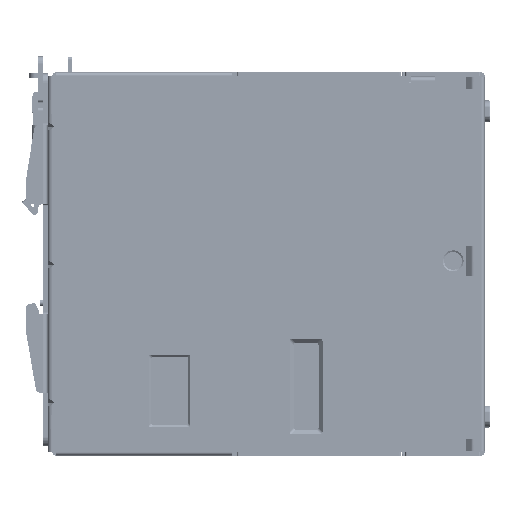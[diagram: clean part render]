
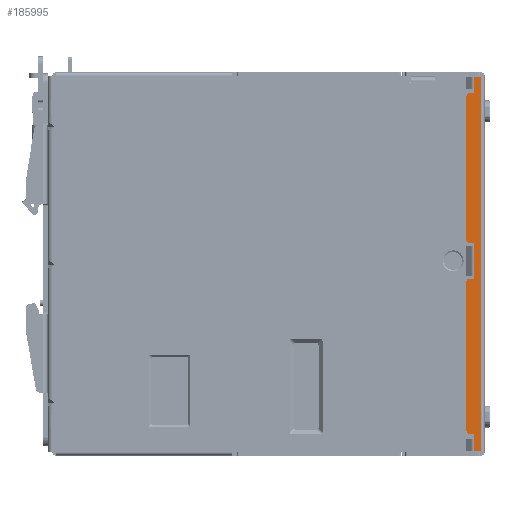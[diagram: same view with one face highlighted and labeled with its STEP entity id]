
A CAD part, front view. The second image highlights one B-rep face of the part: STEP entity #185995.
In plain terms, the highlighted planar face has unit normal (0, -1, 0).
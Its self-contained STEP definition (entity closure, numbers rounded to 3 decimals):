
#19834=DIRECTION('',(-0.001,0.,-1.));
#19835=VECTOR('',#19834,9.5);
#19836=CARTESIAN_POINT('',(135.945,0.,-55.25));
#19837=LINE('',#19836,#19835);
#19860=CARTESIAN_POINT('',(135.945,0.,-55.25));
#19874=DIRECTION('',(1.,0.,0.));
#19875=VECTOR('',#19874,1.35);
#19876=CARTESIAN_POINT('',(134.6,0.,-54.25));
#19877=LINE('',#19876,#19875);
#19882=DIRECTION('',(-1.,0.,0.));
#19883=VECTOR('',#19882,2.363);
#19884=CARTESIAN_POINT('',(138.3,0.,-121.3));
#19885=LINE('',#19884,#19883);
#19886=CARTESIAN_POINT('',(135.95,0.,-115.8));
#19887=CARTESIAN_POINT('',(135.95,0.,-116.3));
#19888=CARTESIAN_POINT('',(135.945,0.,
-116.8));
#19889=CARTESIAN_POINT('',(135.945,0.,-117.3));
#19891=CARTESIAN_POINT('',(134.6,0.,-114.8));
#19892=DIRECTION('',(0.,-1.,0.));
#19893=DIRECTION('',(-1.,0.,0.));
#19894=AXIS2_PLACEMENT_3D('',#19891,#19892,#19893);
#19896=CARTESIAN_POINT('',(134.6,0.,-66.75));
#19897=DIRECTION('',(0.,-1.,0.));
#19898=DIRECTION('',(0.,0.,1.));
#19899=AXIS2_PLACEMENT_3D('',#19896,#19897,#19898);
#19901=DIRECTION('',(0.,0.,1.));
#19902=VECTOR('',#19901,1.);
#19903=CARTESIAN_POINT('',(135.937,0.,-65.75));
#19904=LINE('',#19903,#19902);
#19905=CARTESIAN_POINT('',(135.95,0.,-54.25));
#19906=CARTESIAN_POINT('',(135.95,0.,-54.583));
#19907=CARTESIAN_POINT('',(135.945,0.,
-54.917));
#19908=CARTESIAN_POINT('',(135.945,0.,-55.25));
#19910=CARTESIAN_POINT('',(134.6,0.,-53.25));
#19911=DIRECTION('',(0.,-1.,0.));
#19912=DIRECTION('',(-1.,0.,0.));
#19913=AXIS2_PLACEMENT_3D('',#19910,#19911,#19912);
#19915=CARTESIAN_POINT('',(134.6,0.,-6.9));
#19916=DIRECTION('',(0.,-1.,0.));
#19917=DIRECTION('',(0.,0.,1.));
#19918=AXIS2_PLACEMENT_3D('',#19915,#19916,#19917);
#19920=CARTESIAN_POINT('',(135.945,0.,-4.4));
#19921=CARTESIAN_POINT('',(135.945,0.,
-4.9));
#19922=CARTESIAN_POINT('',(135.95,0.,-5.4));
#19923=CARTESIAN_POINT('',(135.95,0.,-5.9));
#19925=DIRECTION('',(-1.,0.,0.));
#19926=VECTOR('',#19925,2.363);
#19927=CARTESIAN_POINT('',(138.3,0.,-0.7));
#19928=LINE('',#19927,#19926);
#19946=DIRECTION('',(-0.002,0.,1.));
#19947=VECTOR('',#19946,3.7);
#19948=CARTESIAN_POINT('',(135.945,0.,-4.4));
#19949=LINE('',#19948,#19947);
#19967=CARTESIAN_POINT('',(135.945,0.,-4.4));
#20111=DIRECTION('',(-1.,0.,0.));
#20112=VECTOR('',#20111,1.35);
#20113=CARTESIAN_POINT('',(135.95,0.,-5.9));
#20114=LINE('',#20113,#20112);
#20119=DIRECTION('',(0.,0.,-1.));
#20120=VECTOR('',#20119,46.35);
#20121=CARTESIAN_POINT('',(133.6,0.,-6.9));
#20122=LINE('',#20121,#20120);
#25707=DIRECTION('',(1.,0.,0.));
#25708=VECTOR('',#25707,1.35);
#25709=CARTESIAN_POINT('',(134.6,0.,-115.8));
#25710=LINE('',#25709,#25708);
#25727=DIRECTION('',(0.,0.,-1.));
#25728=VECTOR('',#25727,48.05);
#25729=CARTESIAN_POINT('',(133.6,0.,-66.75));
#25730=LINE('',#25729,#25728);
#25743=DIRECTION('',(-1.,0.,0.));
#25744=VECTOR('',#25743,1.337);
#25745=CARTESIAN_POINT('',(135.937,0.,-65.75));
#25746=LINE('',#25745,#25744);
#25772=CARTESIAN_POINT('',(135.945,0.,-117.3));
#25774=DIRECTION('',(0.002,0.,1.));
#25775=VECTOR('',#25774,4.);
#25776=CARTESIAN_POINT('',(135.937,0.,-121.3));
#25777=LINE('',#25776,#25775);
#25800=DIRECTION('',(0.,0.,1.));
#25801=VECTOR('',#25800,120.6);
#25802=CARTESIAN_POINT('',(138.3,0.,-121.3));
#25803=LINE('',#25802,#25801);
#137400=VERTEX_POINT('',#19967);
#137585=VERTEX_POINT('',#25772);
#137742=CARTESIAN_POINT('',(135.95,0.,-54.25));
#137744=VERTEX_POINT('',#137742);
#137746=CARTESIAN_POINT('',(133.6,0.,-53.25));
#137747=CARTESIAN_POINT('',(134.6,0.,-54.25));
#137748=VERTEX_POINT('',#137746);
#137749=VERTEX_POINT('',#137747);
#137764=VERTEX_POINT('',#19860);
#137779=CARTESIAN_POINT('',(135.937,0.,-64.75));
#137780=VERTEX_POINT('',#137779);
#137794=CARTESIAN_POINT('',(135.937,0.,-65.75));
#137796=VERTEX_POINT('',#137794);
#137797=CARTESIAN_POINT('',(134.6,0.,-65.75));
#137798=CARTESIAN_POINT('',(133.6,0.,-66.75));
#137799=VERTEX_POINT('',#137797);
#137800=VERTEX_POINT('',#137798);
#137821=CARTESIAN_POINT('',(135.95,0.,-115.8));
#137823=VERTEX_POINT('',#137821);
#137825=CARTESIAN_POINT('',(133.6,0.,-114.8));
#137826=CARTESIAN_POINT('',(134.6,0.,-115.8));
#137827=VERTEX_POINT('',#137825);
#137828=VERTEX_POINT('',#137826);
#137833=CARTESIAN_POINT('',(135.95,0.,-5.9));
#137835=VERTEX_POINT('',#137833);
#137837=CARTESIAN_POINT('',(134.6,0.,-5.9));
#137838=CARTESIAN_POINT('',(133.6,0.,-6.9));
#137839=VERTEX_POINT('',#137837);
#137840=VERTEX_POINT('',#137838);
#137921=CARTESIAN_POINT('',(138.3,0.,-121.3));
#137922=CARTESIAN_POINT('',(135.937,0.,-121.3));
#137923=VERTEX_POINT('',#137921);
#137924=VERTEX_POINT('',#137922);
#137933=CARTESIAN_POINT('',(138.3,0.,-0.7));
#137935=VERTEX_POINT('',#137933);
#137941=CARTESIAN_POINT('',(135.937,0.,-0.7));
#137942=VERTEX_POINT('',#137941);
#185952=CARTESIAN_POINT('',(139.5,0.,-0.4));
#185953=DIRECTION('',(0.,-1.,0.));
#185954=DIRECTION('',(0.,0.,1.));
#185955=AXIS2_PLACEMENT_3D('',#185952,#185953,#185954);
#185956=PLANE('',#185955);
#185958=ORIENTED_EDGE('',*,*,#185957,.F.);
#185960=ORIENTED_EDGE('',*,*,#185959,.F.);
#185962=ORIENTED_EDGE('',*,*,#185961,.T.);
#185964=ORIENTED_EDGE('',*,*,#185963,.T.);
#185966=ORIENTED_EDGE('',*,*,#185965,.F.);
#185968=ORIENTED_EDGE('',*,*,#185967,.F.);
#185970=ORIENTED_EDGE('',*,*,#185969,.F.);
#185972=ORIENTED_EDGE('',*,*,#185971,.F.);
#185974=ORIENTED_EDGE('',*,*,#185973,.F.);
#185976=ORIENTED_EDGE('',*,*,#185975,.F.);
#185978=ORIENTED_EDGE('',*,*,#185977,.T.);
#185979=ORIENTED_EDGE('',*,*,#185832,.F.);
#185980=ORIENTED_EDGE('',*,*,#185883,.F.);
#185981=ORIENTED_EDGE('',*,*,#185907,.F.);
#185982=ORIENTED_EDGE('',*,*,#185931,.F.);
#185984=ORIENTED_EDGE('',*,*,#185983,.F.);
#185986=ORIENTED_EDGE('',*,*,#185985,.F.);
#185988=ORIENTED_EDGE('',*,*,#185987,.F.);
#185990=ORIENTED_EDGE('',*,*,#185989,.F.);
#185992=ORIENTED_EDGE('',*,*,#185991,.T.);
#185993=EDGE_LOOP('',(#185958,#185960,#185962,#185964,#185966,#185968,#185970,
#185972,#185974,#185976,#185978,#185979,#185980,#185981,#185982,#185984,#185986,
#185988,#185990,#185992));
#185994=FACE_OUTER_BOUND('',#185993,.F.);
#19890=B_SPLINE_CURVE_WITH_KNOTS('',3,(#19886,#19887,#19888,#19889),
.UNSPECIFIED.,.F.,.F.,(4,4),(0.,1.),.UNSPECIFIED.);
#19895=CIRCLE('',#19894,1.);
#19900=CIRCLE('',#19899,1.);
#19909=B_SPLINE_CURVE_WITH_KNOTS('',3,(#19905,#19906,#19907,#19908),
.UNSPECIFIED.,.F.,.F.,(4,4),(0.,1.),.UNSPECIFIED.);
#19914=CIRCLE('',#19913,1.);
#19919=CIRCLE('',#19918,1.);
#19924=B_SPLINE_CURVE_WITH_KNOTS('',3,(#19920,#19921,#19922,#19923),
.UNSPECIFIED.,.F.,.F.,(4,4),(0.,1.),.UNSPECIFIED.);
#185832=EDGE_CURVE('',#137764,#137780,#19837,.T.);
#185883=EDGE_CURVE('',#137744,#137764,#19909,.T.);
#185907=EDGE_CURVE('',#137749,#137744,#19877,.T.);
#185931=EDGE_CURVE('',#137748,#137749,#19914,.T.);
#185957=EDGE_CURVE('',#137935,#137942,#19928,.T.);
#185959=EDGE_CURVE('',#137923,#137935,#25803,.T.);
#185961=EDGE_CURVE('',#137923,#137924,#19885,.T.);
#185963=EDGE_CURVE('',#137924,#137585,#25777,.T.);
#185965=EDGE_CURVE('',#137823,#137585,#19890,.T.);
#185967=EDGE_CURVE('',#137828,#137823,#25710,.T.);
#185969=EDGE_CURVE('',#137827,#137828,#19895,.T.);
#185971=EDGE_CURVE('',#137800,#137827,#25730,.T.);
#185973=EDGE_CURVE('',#137799,#137800,#19900,.T.);
#185975=EDGE_CURVE('',#137796,#137799,#25746,.T.);
#185977=EDGE_CURVE('',#137796,#137780,#19904,.T.);
#185983=EDGE_CURVE('',#137840,#137748,#20122,.T.);
#185985=EDGE_CURVE('',#137839,#137840,#19919,.T.);
#185987=EDGE_CURVE('',#137835,#137839,#20114,.T.);
#185989=EDGE_CURVE('',#137400,#137835,#19924,.T.);
#185991=EDGE_CURVE('',#137400,#137942,#19949,.T.);
#185995=ADVANCED_FACE('',(#185994),#185956,.T.);
